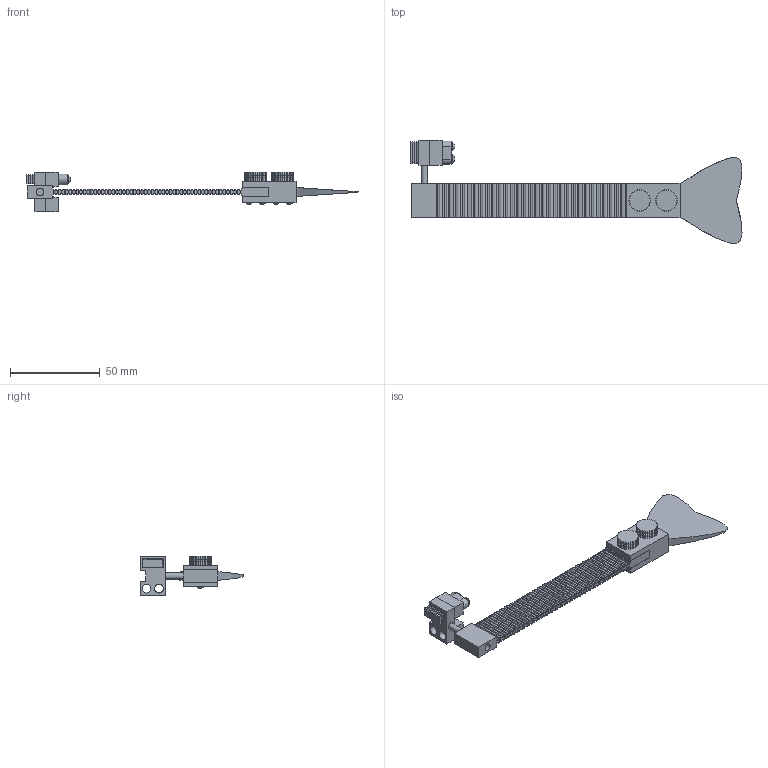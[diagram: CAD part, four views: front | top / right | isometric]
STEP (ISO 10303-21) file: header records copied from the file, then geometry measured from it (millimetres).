
FILE_DESCRIPTION(/* description */ (''),/* implementation_level */ '2;1');
FILE_NAME(/* name */ 'C:\Users\Diego\Downloads\9\Animalitos\Lubina.stp',/* time_stamp */ '2019-07-10T16:12:19-04:00',/* author */ ('Diego'),/* organization */ (''),/* preprocessor_version */ 'ST-DEVELOPER v16.5',/* originating_system */ 'Autodesk Inventor 2017',/* authorisation */ '');
FILE_SCHEMA (('AUTOMOTIVE_DESIGN { 1 0 10303 214 3 1 1 }'));
Length unit declared in the file: millimetre
Products named in the file (1): Lubina
Bounding box: 185.36 x 57.83 x 22 mm (x, y, z)
Volume: 20137.3 mm3; surface area: 21133.6 mm2
Topology: 11 solids, 11 shells, 392 faces, 1048 edges, 684 vertices
Faces by surface type: cylinder 278, plane 92, torus 12, cone 8, bspline 2
Full cylindrical faces by diameter (mm): 3.4 x1, 3.7 x4, 3.9 x2, 4 x12, 4.7 x2, 5 x10, 12 x10
Entity records: 12560 total; most frequent: CARTESIAN_POINT 2432, DIRECTION 2309, ORIENTED_EDGE 1954, EDGE_CURVE 977, AXIS2_PLACEMENT_3D 945, VERTEX_POINT 674, CIRCLE 542, EDGE_LOOP 505
